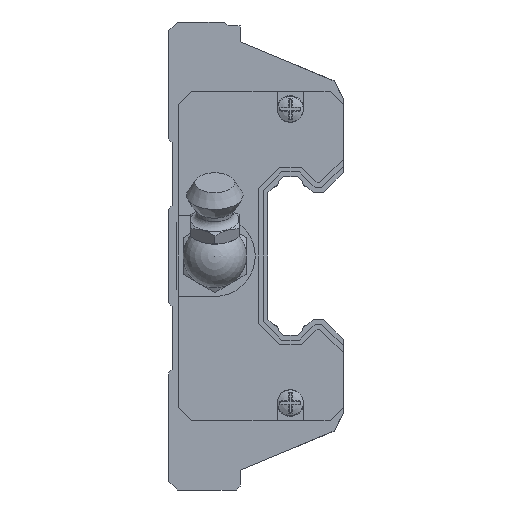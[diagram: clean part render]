
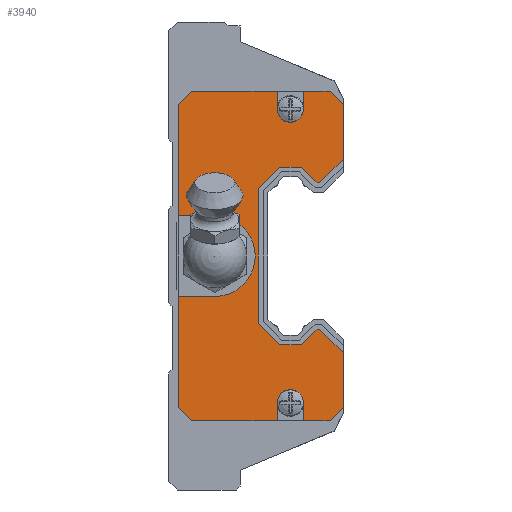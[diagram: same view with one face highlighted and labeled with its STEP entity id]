
A CAD part, left-side view. The second image highlights one B-rep face of the part: STEP entity #3940.
In plain terms, the highlighted planar face has unit normal (-1, 0, 0) as drawn and (1, 0, 0) by its records, which use the part's own axes.
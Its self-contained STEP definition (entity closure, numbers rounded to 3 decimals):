
#3505 = EDGE_CURVE('',#3506,#3508,#3510,.T.);
#3506 = VERTEX_POINT('',#3507);
#3507 = CARTESIAN_POINT('',(2.,14.319,-20.8));
#3508 = VERTEX_POINT('',#3509);
#3509 = CARTESIAN_POINT('',(2.,14.319,-18.5));
#3510 = LINE('',#3511,#3512);
#3511 = CARTESIAN_POINT('',(2.,14.319,0.));
#3512 = VECTOR('',#3513,1.);
#3513 = DIRECTION('',(0.,0.,1.));
#3556 = VERTEX_POINT('',#3557);
#3557 = CARTESIAN_POINT('',(2.,11.021,-18.5));
#3563 = EDGE_CURVE('',#3508,#3556,#3564,.T.);
#3564 = CIRCLE('',#3565,1.649);
#3565 = AXIS2_PLACEMENT_3D('',#3566,#3567,#3568);
#3566 = CARTESIAN_POINT('',(2.,12.67,-18.5));
#3567 = DIRECTION('',(1.,0.,0.));
#3568 = DIRECTION('',(0.,0.,-1.));
#3892 = VERTEX_POINT('',#3893);
#3893 = CARTESIAN_POINT('',(2.,6.,12.197));
#3899 = EDGE_CURVE('',#3900,#3892,#3902,.T.);
#3900 = VERTEX_POINT('',#3901);
#3901 = CARTESIAN_POINT('',(2.,6.,19.15));
#3902 = LINE('',#3903,#3904);
#3903 = CARTESIAN_POINT('',(2.,6.,19.15));
#3904 = VECTOR('',#3905,1.);
#3905 = DIRECTION('',(0.,0.,-1.));
#3940 = ADVANCED_FACE('',(#3941),#4176,.T.);
#3941 = FACE_BOUND('',#3942,.T.);
#3942 = EDGE_LOOP('',(#3943,#3951,#3959,#3967,#3975,#3983,#3991,#3999,
    #4007,#4015,#4023,#4031,#4039,#4047,#4055,#4061,#4062,#4063,#4071,
    #4079,#4087,#4095,#4104,#4112,#4120,#4128,#4136,#4144,#4153,#4161,
    #4169,#4175));
#3943 = ORIENTED_EDGE('',*,*,#3944,.F.);
#3944 = EDGE_CURVE('',#3945,#3892,#3947,.T.);
#3945 = VERTEX_POINT('',#3946);
#3946 = CARTESIAN_POINT('',(2.,8.992,9.205));
#3947 = LINE('',#3948,#3949);
#3948 = CARTESIAN_POINT('',(2.,8.992,9.205));
#3949 = VECTOR('',#3950,1.);
#3950 = DIRECTION('',(0.,-0.707,0.707));
#3951 = ORIENTED_EDGE('',*,*,#3952,.F.);
#3952 = EDGE_CURVE('',#3953,#3945,#3955,.T.);
#3953 = VERTEX_POINT('',#3954);
#3954 = CARTESIAN_POINT('',(2.,9.303,9.205));
#3955 = LINE('',#3956,#3957);
#3956 = CARTESIAN_POINT('',(2.,9.303,9.205));
#3957 = VECTOR('',#3958,1.);
#3958 = DIRECTION('',(0.,-1.,0.));
#3959 = ORIENTED_EDGE('',*,*,#3960,.F.);
#3960 = EDGE_CURVE('',#3961,#3953,#3963,.T.);
#3961 = VERTEX_POINT('',#3962);
#3962 = CARTESIAN_POINT('',(2.,11.298,11.2));
#3963 = LINE('',#3964,#3965);
#3964 = CARTESIAN_POINT('',(2.,11.298,11.2));
#3965 = VECTOR('',#3966,1.);
#3966 = DIRECTION('',(0.,-0.707,-0.707));
#3967 = ORIENTED_EDGE('',*,*,#3968,.F.);
#3968 = EDGE_CURVE('',#3969,#3961,#3971,.T.);
#3969 = VERTEX_POINT('',#3970);
#3970 = CARTESIAN_POINT('',(2.,14.002,11.2));
#3971 = LINE('',#3972,#3973);
#3972 = CARTESIAN_POINT('',(2.,14.002,11.2));
#3973 = VECTOR('',#3974,1.);
#3974 = DIRECTION('',(0.,-1.,0.));
#3975 = ORIENTED_EDGE('',*,*,#3976,.F.);
#3976 = EDGE_CURVE('',#3977,#3969,#3979,.T.);
#3977 = VERTEX_POINT('',#3978);
#3978 = CARTESIAN_POINT('',(2.,16.7,8.502));
#3979 = LINE('',#3980,#3981);
#3980 = CARTESIAN_POINT('',(2.,16.7,8.502));
#3981 = VECTOR('',#3982,1.);
#3982 = DIRECTION('',(0.,-0.707,0.707));
#3983 = ORIENTED_EDGE('',*,*,#3984,.F.);
#3984 = EDGE_CURVE('',#3985,#3977,#3987,.T.);
#3985 = VERTEX_POINT('',#3986);
#3986 = CARTESIAN_POINT('',(2.,16.7,-8.502));
#3987 = LINE('',#3988,#3989);
#3988 = CARTESIAN_POINT('',(2.,16.7,-8.502));
#3989 = VECTOR('',#3990,1.);
#3990 = DIRECTION('',(0.,0.,1.));
#3991 = ORIENTED_EDGE('',*,*,#3992,.F.);
#3992 = EDGE_CURVE('',#3993,#3985,#3995,.T.);
#3993 = VERTEX_POINT('',#3994);
#3994 = CARTESIAN_POINT('',(2.,14.002,-11.2));
#3995 = LINE('',#3996,#3997);
#3996 = CARTESIAN_POINT('',(2.,14.002,-11.2));
#3997 = VECTOR('',#3998,1.);
#3998 = DIRECTION('',(0.,0.707,0.707));
#3999 = ORIENTED_EDGE('',*,*,#4000,.F.);
#4000 = EDGE_CURVE('',#4001,#3993,#4003,.T.);
#4001 = VERTEX_POINT('',#4002);
#4002 = CARTESIAN_POINT('',(2.,11.298,-11.2));
#4003 = LINE('',#4004,#4005);
#4004 = CARTESIAN_POINT('',(2.,11.298,-11.2));
#4005 = VECTOR('',#4006,1.);
#4006 = DIRECTION('',(0.,1.,0.));
#4007 = ORIENTED_EDGE('',*,*,#4008,.F.);
#4008 = EDGE_CURVE('',#4009,#4001,#4011,.T.);
#4009 = VERTEX_POINT('',#4010);
#4010 = CARTESIAN_POINT('',(2.,9.303,-9.205));
#4011 = LINE('',#4012,#4013);
#4012 = CARTESIAN_POINT('',(2.,9.303,-9.205));
#4013 = VECTOR('',#4014,1.);
#4014 = DIRECTION('',(0.,0.707,-0.707));
#4015 = ORIENTED_EDGE('',*,*,#4016,.F.);
#4016 = EDGE_CURVE('',#4017,#4009,#4019,.T.);
#4017 = VERTEX_POINT('',#4018);
#4018 = CARTESIAN_POINT('',(2.,8.992,-9.205));
#4019 = LINE('',#4020,#4021);
#4020 = CARTESIAN_POINT('',(2.,8.992,-9.205));
#4021 = VECTOR('',#4022,1.);
#4022 = DIRECTION('',(0.,1.,0.));
#4023 = ORIENTED_EDGE('',*,*,#4024,.F.);
#4024 = EDGE_CURVE('',#4025,#4017,#4027,.T.);
#4025 = VERTEX_POINT('',#4026);
#4026 = CARTESIAN_POINT('',(2.,6.,-12.197));
#4027 = LINE('',#4028,#4029);
#4028 = CARTESIAN_POINT('',(2.,6.,-12.197));
#4029 = VECTOR('',#4030,1.);
#4030 = DIRECTION('',(0.,0.707,0.707));
#4031 = ORIENTED_EDGE('',*,*,#4032,.T.);
#4032 = EDGE_CURVE('',#4025,#4033,#4035,.T.);
#4033 = VERTEX_POINT('',#4034);
#4034 = CARTESIAN_POINT('',(2.,6.,-19.15));
#4035 = LINE('',#4036,#4037);
#4036 = CARTESIAN_POINT('',(2.,6.,19.15));
#4037 = VECTOR('',#4038,1.);
#4038 = DIRECTION('',(0.,0.,-1.));
#4039 = ORIENTED_EDGE('',*,*,#4040,.T.);
#4040 = EDGE_CURVE('',#4033,#4041,#4043,.T.);
#4041 = VERTEX_POINT('',#4042);
#4042 = CARTESIAN_POINT('',(2.,7.65,-20.8));
#4043 = LINE('',#4044,#4045);
#4044 = CARTESIAN_POINT('',(2.,6.,-19.15));
#4045 = VECTOR('',#4046,1.);
#4046 = DIRECTION('',(0.,0.707,-0.707));
#4047 = ORIENTED_EDGE('',*,*,#4048,.T.);
#4048 = EDGE_CURVE('',#4041,#4049,#4051,.T.);
#4049 = VERTEX_POINT('',#4050);
#4050 = CARTESIAN_POINT('',(2.,11.021,-20.8));
#4051 = LINE('',#4052,#4053);
#4052 = CARTESIAN_POINT('',(2.,7.65,-20.8));
#4053 = VECTOR('',#4054,1.);
#4054 = DIRECTION('',(0.,1.,0.));
#4055 = ORIENTED_EDGE('',*,*,#4056,.F.);
#4056 = EDGE_CURVE('',#3556,#4049,#4057,.T.);
#4057 = LINE('',#4058,#4059);
#4058 = CARTESIAN_POINT('',(2.,11.021,-18.5));
#4059 = VECTOR('',#4060,1.);
#4060 = DIRECTION('',(0.,0.,-1.));
#4061 = ORIENTED_EDGE('',*,*,#3563,.F.);
#4062 = ORIENTED_EDGE('',*,*,#3505,.F.);
#4063 = ORIENTED_EDGE('',*,*,#4064,.T.);
#4064 = EDGE_CURVE('',#3506,#4065,#4067,.T.);
#4065 = VERTEX_POINT('',#4066);
#4066 = CARTESIAN_POINT('',(2.,25.15,-20.8));
#4067 = LINE('',#4068,#4069);
#4068 = CARTESIAN_POINT('',(2.,7.65,-20.8));
#4069 = VECTOR('',#4070,1.);
#4070 = DIRECTION('',(0.,1.,0.));
#4071 = ORIENTED_EDGE('',*,*,#4072,.T.);
#4072 = EDGE_CURVE('',#4065,#4073,#4075,.T.);
#4073 = VERTEX_POINT('',#4074);
#4074 = CARTESIAN_POINT('',(2.,26.8,-19.15));
#4075 = LINE('',#4076,#4077);
#4076 = CARTESIAN_POINT('',(2.,25.15,-20.8));
#4077 = VECTOR('',#4078,1.);
#4078 = DIRECTION('',(0.,0.707,0.707));
#4079 = ORIENTED_EDGE('',*,*,#4080,.T.);
#4080 = EDGE_CURVE('',#4073,#4081,#4083,.T.);
#4081 = VERTEX_POINT('',#4082);
#4082 = CARTESIAN_POINT('',(2.,26.8,-5.1));
#4083 = LINE('',#4084,#4085);
#4084 = CARTESIAN_POINT('',(2.,26.8,-19.15));
#4085 = VECTOR('',#4086,1.);
#4086 = DIRECTION('',(0.,0.,1.));
#4087 = ORIENTED_EDGE('',*,*,#4088,.F.);
#4088 = EDGE_CURVE('',#4089,#4081,#4091,.T.);
#4089 = VERTEX_POINT('',#4090);
#4090 = CARTESIAN_POINT('',(2.,22.2,-5.1));
#4091 = LINE('',#4092,#4093);
#4092 = CARTESIAN_POINT('',(2.,22.2,-5.1));
#4093 = VECTOR('',#4094,1.);
#4094 = DIRECTION('',(0.,1.,0.));
#4095 = ORIENTED_EDGE('',*,*,#4096,.F.);
#4096 = EDGE_CURVE('',#4097,#4089,#4099,.T.);
#4097 = VERTEX_POINT('',#4098);
#4098 = CARTESIAN_POINT('',(2.,22.2,5.1));
#4099 = CIRCLE('',#4100,5.1);
#4100 = AXIS2_PLACEMENT_3D('',#4101,#4102,#4103);
#4101 = CARTESIAN_POINT('',(2.,22.2,0.));
#4102 = DIRECTION('',(1.,0.,0.));
#4103 = DIRECTION('',(0.,0.,-1.));
#4104 = ORIENTED_EDGE('',*,*,#4105,.F.);
#4105 = EDGE_CURVE('',#4106,#4097,#4108,.T.);
#4106 = VERTEX_POINT('',#4107);
#4107 = CARTESIAN_POINT('',(2.,26.8,5.1));
#4108 = LINE('',#4109,#4110);
#4109 = CARTESIAN_POINT('',(2.,26.8,5.1));
#4110 = VECTOR('',#4111,1.);
#4111 = DIRECTION('',(0.,-1.,0.));
#4112 = ORIENTED_EDGE('',*,*,#4113,.T.);
#4113 = EDGE_CURVE('',#4106,#4114,#4116,.T.);
#4114 = VERTEX_POINT('',#4115);
#4115 = CARTESIAN_POINT('',(2.,26.8,19.15));
#4116 = LINE('',#4117,#4118);
#4117 = CARTESIAN_POINT('',(2.,26.8,-19.15));
#4118 = VECTOR('',#4119,1.);
#4119 = DIRECTION('',(0.,0.,1.));
#4120 = ORIENTED_EDGE('',*,*,#4121,.T.);
#4121 = EDGE_CURVE('',#4114,#4122,#4124,.T.);
#4122 = VERTEX_POINT('',#4123);
#4123 = CARTESIAN_POINT('',(2.,25.15,20.8));
#4124 = LINE('',#4125,#4126);
#4125 = CARTESIAN_POINT('',(2.,26.8,19.15));
#4126 = VECTOR('',#4127,1.);
#4127 = DIRECTION('',(0.,-0.707,0.707));
#4128 = ORIENTED_EDGE('',*,*,#4129,.T.);
#4129 = EDGE_CURVE('',#4122,#4130,#4132,.T.);
#4130 = VERTEX_POINT('',#4131);
#4131 = CARTESIAN_POINT('',(2.,14.319,20.8));
#4132 = LINE('',#4133,#4134);
#4133 = CARTESIAN_POINT('',(2.,25.15,20.8));
#4134 = VECTOR('',#4135,1.);
#4135 = DIRECTION('',(0.,-1.,0.));
#4136 = ORIENTED_EDGE('',*,*,#4137,.F.);
#4137 = EDGE_CURVE('',#4138,#4130,#4140,.T.);
#4138 = VERTEX_POINT('',#4139);
#4139 = CARTESIAN_POINT('',(2.,14.319,18.5));
#4140 = LINE('',#4141,#4142);
#4141 = CARTESIAN_POINT('',(2.,14.319,18.5));
#4142 = VECTOR('',#4143,1.);
#4143 = DIRECTION('',(0.,0.,1.));
#4144 = ORIENTED_EDGE('',*,*,#4145,.F.);
#4145 = EDGE_CURVE('',#4146,#4138,#4148,.T.);
#4146 = VERTEX_POINT('',#4147);
#4147 = CARTESIAN_POINT('',(2.,11.021,18.5));
#4148 = CIRCLE('',#4149,1.649);
#4149 = AXIS2_PLACEMENT_3D('',#4150,#4151,#4152);
#4150 = CARTESIAN_POINT('',(2.,12.67,18.5));
#4151 = DIRECTION('',(1.,0.,0.));
#4152 = DIRECTION('',(0.,0.,-1.));
#4153 = ORIENTED_EDGE('',*,*,#4154,.F.);
#4154 = EDGE_CURVE('',#4155,#4146,#4157,.T.);
#4155 = VERTEX_POINT('',#4156);
#4156 = CARTESIAN_POINT('',(2.,11.021,20.8));
#4157 = LINE('',#4158,#4159);
#4158 = CARTESIAN_POINT('',(2.,11.021,20.8));
#4159 = VECTOR('',#4160,1.);
#4160 = DIRECTION('',(0.,0.,-1.));
#4161 = ORIENTED_EDGE('',*,*,#4162,.T.);
#4162 = EDGE_CURVE('',#4155,#4163,#4165,.T.);
#4163 = VERTEX_POINT('',#4164);
#4164 = CARTESIAN_POINT('',(2.,7.65,20.8));
#4165 = LINE('',#4166,#4167);
#4166 = CARTESIAN_POINT('',(2.,25.15,20.8));
#4167 = VECTOR('',#4168,1.);
#4168 = DIRECTION('',(0.,-1.,0.));
#4169 = ORIENTED_EDGE('',*,*,#4170,.T.);
#4170 = EDGE_CURVE('',#4163,#3900,#4171,.T.);
#4171 = LINE('',#4172,#4173);
#4172 = CARTESIAN_POINT('',(2.,7.65,20.8));
#4173 = VECTOR('',#4174,1.);
#4174 = DIRECTION('',(0.,-0.707,-0.707));
#4175 = ORIENTED_EDGE('',*,*,#3899,.T.);
#4176 = PLANE('',#4177);
#4177 = AXIS2_PLACEMENT_3D('',#4178,#4179,#4180);
#4178 = CARTESIAN_POINT('',(2.,0.,0.));
#4179 = DIRECTION('',(1.,0.,0.));
#4180 = DIRECTION('',(0.,0.,1.));
